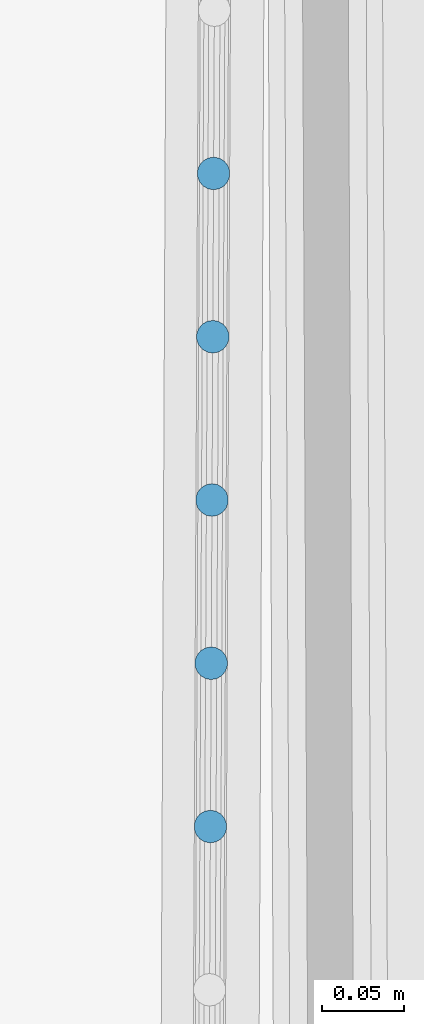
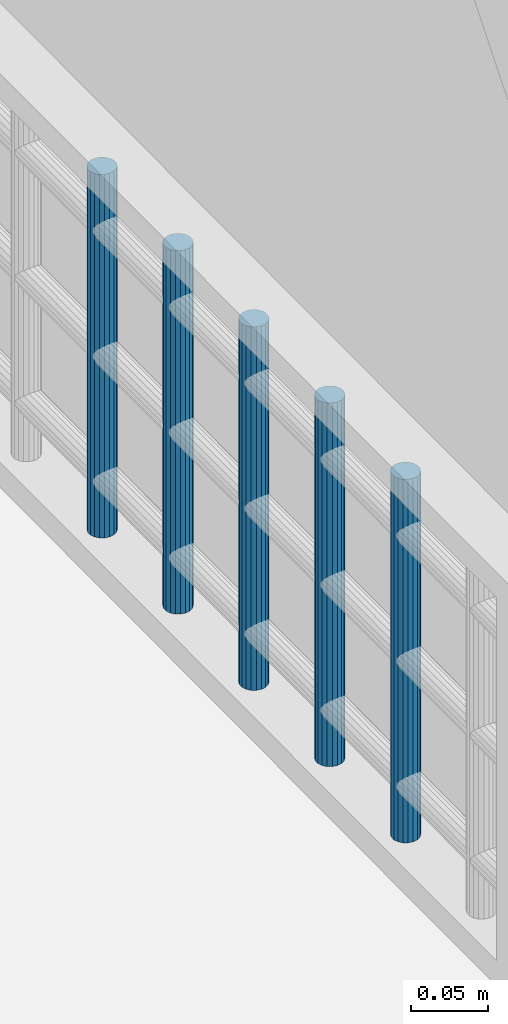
# One storey, part 36 of 72: 5 members, 1 element without a shape of its own.
"""IFC2X3 building model written with IfcOpenShell, lengths in centimetres."""

from ifc_helpers import new_model, entity, si_unit, converted_unit, direction, frame, origin, origin_with_axes, place, context, subcontext, project, spatial, faceted_brep, material, type_object, element, aggregate, save


model = new_model("IFC2X3")

# Units and contexts
model_context = context("Model", 3, precision=0.0001, world=origin(), true_north=direction((0.225632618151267, 0.974212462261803, 0.0)))
body_context = subcontext(model_context, "Body", "Model", "MODEL_VIEW")
ifc_project = project(units=[si_unit("LENGTHUNIT", "METRE", prefix="CENTI"), si_unit("AREAUNIT", "SQUARE_METRE", prefix="CENTI"), si_unit("VOLUMEUNIT", "CUBIC_METRE", prefix="CENTI"), converted_unit("PLANEANGLEUNIT", "DEGREE", entity("IfcRatioMeasure", 0.0174532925), si_unit("PLANEANGLEUNIT", "RADIAN"), dimensions=[0, 0, 0, 0, 0, 0, 0])], contexts=[model_context])

# Site, building, storey
site_placement = place(None, origin_with_axes())
site = spatial("IfcSite", under=ifc_project, at=site_placement, Name="Default Site", CompositionType="ELEMENT")
building_placement = place(site_placement, origin_with_axes())
building = spatial("IfcBuilding", under=site, at=building_placement, Name="Default Building", CompositionType="ELEMENT")
storey_placement = place(building_placement, frame((0.0, 0.0, 853.910374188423), z_axis=(0.0, 0.0, 1.0), x_axis=(1.0, 0.0, 0.0)))
storey = spatial("IfcBuildingStorey", under=building, at=storey_placement, Name="Niveau 2", CompositionType="ELEMENT", Elevation=853.910374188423)

# Assembly, members
building_element_proxy_type = type_object("IfcBuildingElementProxyType", Name="Type Object", PredefinedType="NOTDEFINED")
assembly_placement = place(storey_placement, frame((1065.78157704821, 135.618268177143, 11.9999999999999), z_axis=(0.0, 0.0, 1.0), x_axis=(-0.00486371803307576, -0.999988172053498, 0.0)))
assembly = element("IfcElementAssembly", 1, at=assembly_placement, inside=storey, type_object=building_element_proxy_type, Name="Panneau 1702025", ObjectType="Precast panel", PredefinedType="USERDEFINED")
ifc_material = material(Name="Aluminium satiné")
member_1_placement = place(assembly_placement, frame((88.439691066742, 0.342020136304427, 31.0000002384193), z_axis=(0.0, 0.0, 1.0), x_axis=(0.499995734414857, -0.866027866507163, 0.0)))
member_1 = element("IfcMember", 2, at=member_1_placement, material=ifc_material, Name="4294967121", context=body_context, shape_type="Brep", body=[
    faceted_brep([(-8.88178419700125e-14, 2.22044604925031e-14, -3.49720252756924e-13), (-0.347295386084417, 0.0, -3.49720252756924e-13), (-0.673647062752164, -0.118784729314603, -3.49720252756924e-13), (-0.93969117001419, -0.342025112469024, -3.49720252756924e-13), (-1.11333590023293, -0.642790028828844, -3.49720252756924e-13), (-1.17364232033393, -0.98481176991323, -3.49720252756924e-13), (-1.11333370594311, -1.32683238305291, -3.49720252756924e-13), (-0.939683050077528, -1.62759729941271, -3.49720252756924e-13), (-0.67363781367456, -1.85083429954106, -3.49720252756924e-13), (-0.347285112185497, -1.96961451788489, -3.49720252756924e-13), (1.02738988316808e-05, -1.96961451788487, -3.49720252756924e-13), (0.326361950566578, -1.85082978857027, -3.49720252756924e-13), (0.592406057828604, -1.62758940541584, -3.49720252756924e-13), (0.766050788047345, -1.32682448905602, -3.49720252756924e-13), (0.826357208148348, -0.984802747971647, -3.49720252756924e-13), (0.766048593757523, -0.642782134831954, -3.49720252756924e-13), (0.592397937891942, -0.342017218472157, -3.49720252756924e-13), (0.326352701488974, -0.118780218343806, -3.49720252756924e-13), (0.326352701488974, -0.118780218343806, -29.0000002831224), (0.592397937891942, -0.342017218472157, -29.0000002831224), (0.766048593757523, -0.642782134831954, -29.0000002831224), (0.826357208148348, -0.984802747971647, -29.0000002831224), (0.766050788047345, -1.32682448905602, -29.0000002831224), (0.592406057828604, -1.62758940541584, -29.0000002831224), (0.326361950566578, -1.85082978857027, -29.0000002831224), (1.02738988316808e-05, -1.96961451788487, -29.0000002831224), (-0.347285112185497, -1.96961451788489, -29.0000002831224), (-0.67363781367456, -1.85083429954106, -29.0000002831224), (-0.939683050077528, -1.62759729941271, -29.0000002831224), (-1.11333370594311, -1.32683238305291, -29.0000002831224), (-1.17364232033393, -0.98481176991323, -29.0000002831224), (-1.11333590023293, -0.642790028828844, -29.0000002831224), (-0.93969117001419, -0.342025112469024, -29.0000002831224), (-0.673647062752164, -0.118784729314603, -29.0000002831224), (-0.347295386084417, 0.0, -29.0000002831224), (-8.88178419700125e-14, 2.22044604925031e-14, -29.0000002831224), (0.592398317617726, -0.342016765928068, -3.49720252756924e-13), (0.592398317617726, -0.342016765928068, -29.0000002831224), (0.766047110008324, -0.642782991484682, -3.49720252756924e-13), (0.766047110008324, -0.642782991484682, -29.0000002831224), (0.826357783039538, -0.984802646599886, -3.49720252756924e-13), (0.826357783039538, -0.984802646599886, -29.0000002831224), (0.766051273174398, -1.32682457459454, -3.49720252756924e-13), (0.766051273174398, -1.32682457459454, -29.0000002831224), (0.592406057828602, -1.62758940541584, -3.49720252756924e-13), (0.592406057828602, -1.62758940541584, -29.0000002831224), (0.326361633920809, -1.85082941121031, -3.49720252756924e-13), (0.326361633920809, -1.85082941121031, -29.0000002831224), (1.00742383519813e-05, -1.96961396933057, -3.49720252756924e-13), (1.00742383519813e-05, -1.96961396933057, -29.0000002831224), (-0.347285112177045, -1.96961623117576, -3.49720252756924e-13), (-0.347285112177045, -1.96961623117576, -29.0000002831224), (-0.673637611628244, -1.85083374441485, -3.49720252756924e-13), (-0.673637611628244, -1.85083374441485, -29.0000002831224), (-0.939683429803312, -1.6275977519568, -3.49720252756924e-13), (-0.939683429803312, -1.6275977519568, -29.0000002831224), (-1.11333222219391, -1.32683152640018, -3.49720252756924e-13), (-1.11333222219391, -1.32683152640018, -29.0000002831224), (-1.17364289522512, -0.98481187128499, -3.49720252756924e-13), (-1.17364289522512, -0.98481187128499, -29.0000002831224), (-1.11333638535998, -0.642789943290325, -3.49720252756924e-13), (-1.11333638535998, -0.642789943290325, -29.0000002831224), (-0.939691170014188, -0.342025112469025, -3.49720252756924e-13), (-0.939691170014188, -0.342025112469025, -29.0000002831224), (-0.6736467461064, -0.118785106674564, -3.49720252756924e-13), (-0.6736467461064, -0.118785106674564, -29.0000002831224), (-0.347295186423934, -5.48554301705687e-07, -3.49720252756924e-13), (-0.347295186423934, -5.48554301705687e-07, -29.0000002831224), (-8.540889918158e-12, 1.7132908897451e-06, -3.49720252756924e-13), (-8.540889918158e-12, 1.7132908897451e-06, -29.0000002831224), (0.326352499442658, -0.118780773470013, -3.49720252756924e-13), (0.326352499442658, -0.118780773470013, -29.0000002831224)], [[[0, 1, 2, 3, 4, 5, 6, 7, 8, 9, 10, 11, 12, 13, 14, 15, 16, 17]], [[18, 19, 20, 21, 22, 23, 24, 25, 26, 27, 28, 29, 30, 31, 32, 33, 34, 35]], [[17, 36, 37, 18]], [[16, 38, 39, 19]], [[15, 40, 41, 20]], [[14, 42, 43, 21]], [[13, 44, 45, 22]], [[12, 46, 47, 23]], [[11, 48, 49, 24]], [[10, 50, 51, 25]], [[9, 52, 53, 26]], [[8, 54, 55, 27]], [[7, 56, 57, 28]], [[6, 58, 59, 29]], [[5, 60, 61, 30]], [[4, 62, 63, 31]], [[3, 64, 65, 32]], [[2, 66, 67, 33]], [[1, 68, 69, 34]], [[0, 70, 71, 35]]]),
])
member_2_placement = place(assembly_placement, frame((98.4396934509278, 0.342020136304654, 31.0000002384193), z_axis=(0.0, 0.0, 1.0), x_axis=(0.499995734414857, -0.866027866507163, 0.0)))
member_2 = element("IfcMember", 3, at=member_2_placement, material=ifc_material, Name="4294967120", context=body_context, shape_type="Brep", body=[
    faceted_brep([(8.32667268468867e-14, -9.99200722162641e-14, -3.49720252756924e-13), (-0.34729538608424, -1.22124532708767e-13, -3.49720252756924e-13), (-0.673647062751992, -0.118784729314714, -3.49720252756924e-13), (-0.939691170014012, -0.342025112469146, -3.49720252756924e-13), (-1.11333888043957, -0.642795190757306, -3.49720252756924e-13), (-1.17364232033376, -0.984811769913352, -3.49720252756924e-13), (-1.11333370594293, -1.32683238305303, -3.49720252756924e-13), (-0.939686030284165, -1.62760246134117, -3.49720252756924e-13), (-0.673640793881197, -1.85083946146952, -3.49720252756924e-13), (-0.347288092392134, -1.96961967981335, -3.49720252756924e-13), (1.02738990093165e-05, -1.96961451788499, -3.49720252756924e-13), (0.326361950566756, -1.8508297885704, -3.49720252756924e-13), (0.592403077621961, -1.6275945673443, -3.49720252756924e-13), (0.766050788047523, -1.32682448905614, -3.49720252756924e-13), (0.82635720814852, -0.984802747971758, -3.49720252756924e-13), (0.766048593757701, -0.642782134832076, -3.49720252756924e-13), (0.592397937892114, -0.342017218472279, -3.49720252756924e-13), (0.326352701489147, -0.118780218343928, -3.49720252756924e-13), (0.326352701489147, -0.118780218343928, -29.0000002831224), (0.592397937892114, -0.342017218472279, -29.0000002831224), (0.766048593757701, -0.642782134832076, -29.0000002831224), (0.82635720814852, -0.984802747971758, -29.0000002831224), (0.766050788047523, -1.32682448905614, -29.0000002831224), (0.592403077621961, -1.6275945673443, -29.0000002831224), (0.326361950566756, -1.8508297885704, -29.0000002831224), (1.02738990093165e-05, -1.96961451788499, -29.0000002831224), (-0.347288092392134, -1.96961967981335, -29.0000002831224), (-0.673640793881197, -1.85083946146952, -29.0000002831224), (-0.939686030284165, -1.62760246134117, -29.0000002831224), (-1.11333370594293, -1.32683238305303, -29.0000002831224), (-1.17364232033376, -0.984811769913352, -29.0000002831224), (-1.11333888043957, -0.642795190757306, -29.0000002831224), (-0.939691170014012, -0.342025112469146, -29.0000002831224), (-0.673647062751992, -0.118784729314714, -29.0000002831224), (-0.34729538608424, -1.22124532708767e-13, -29.0000002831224), (8.32667268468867e-14, -9.99200722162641e-14, -29.0000002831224), (0.592398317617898, -0.34201676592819, -3.49720252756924e-13), (0.592398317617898, -0.34201676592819, -29.0000002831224), (0.766047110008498, -0.642782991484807, -3.49720252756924e-13), (0.766047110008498, -0.642782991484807, -29.0000002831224), (0.826357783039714, -0.984802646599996, -3.49720252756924e-13), (0.826357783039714, -0.984802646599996, -29.0000002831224), (0.766051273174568, -1.32682457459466, -3.49720252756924e-13), (0.766051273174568, -1.32682457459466, -29.0000002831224), (0.592403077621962, -1.6275945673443, -3.49720252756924e-13), (0.592403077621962, -1.6275945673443, -29.0000002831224), (0.326362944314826, -1.85083097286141, -3.49720252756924e-13), (0.326362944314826, -1.85083097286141, -29.0000002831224), (1.0074238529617e-05, -1.9696139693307, -3.49720252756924e-13), (1.0074238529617e-05, -1.9696139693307, -29.0000002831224), (-0.347288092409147, -1.96961623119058, -3.49720252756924e-13), (-0.347288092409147, -1.96961623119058, -29.0000002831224), (-0.673640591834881, -1.85083890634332, -3.49720252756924e-13), (-0.673640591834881, -1.85083890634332, -29.0000002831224), (-0.939686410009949, -1.62760291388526, -3.49720252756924e-13), (-0.939686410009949, -1.62760291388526, -29.0000002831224), (-1.11333669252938, -1.32683410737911, -3.49720252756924e-13), (-1.11333669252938, -1.32683410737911, -29.0000002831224), (-1.17364289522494, -0.984811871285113, -3.49720252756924e-13), (-1.17364289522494, -0.984811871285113, -29.0000002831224), (-1.11333735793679, -0.642795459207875, -3.49720252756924e-13), (-1.11333735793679, -0.642795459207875, -29.0000002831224), (-0.939691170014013, -0.342025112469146, -3.49720252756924e-13), (-0.939691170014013, -0.342025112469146, -29.0000002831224), (-0.67364674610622, -0.118785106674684, -3.49720252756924e-13), (-0.67364674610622, -0.118785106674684, -29.0000002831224), (-0.347295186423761, -5.48554412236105e-07, -3.49720252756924e-13), (-0.347295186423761, -5.48554412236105e-07, -29.0000002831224), (-8.36880534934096e-12, 1.71329076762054e-06, -3.49720252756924e-13), (-8.36880534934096e-12, 1.71329076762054e-06, -29.0000002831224), (0.32635249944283, -0.118780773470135, -3.49720252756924e-13), (0.32635249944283, -0.118780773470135, -29.0000002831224)], [[[0, 1, 2, 3, 4, 5, 6, 7, 8, 9, 10, 11, 12, 13, 14, 15, 16, 17]], [[18, 19, 20, 21, 22, 23, 24, 25, 26, 27, 28, 29, 30, 31, 32, 33, 34, 35]], [[17, 36, 37, 18]], [[16, 38, 39, 19]], [[15, 40, 41, 20]], [[14, 42, 43, 21]], [[13, 44, 45, 22]], [[12, 46, 47, 23]], [[11, 48, 49, 24]], [[10, 50, 51, 25]], [[9, 52, 53, 26]], [[8, 54, 55, 27]], [[7, 56, 57, 28]], [[6, 58, 59, 29]], [[5, 60, 61, 30]], [[4, 62, 63, 31]], [[3, 64, 65, 32]], [[2, 66, 67, 33]], [[1, 68, 69, 34]], [[0, 70, 71, 35]]]),
])
member_3_placement = place(assembly_placement, frame((108.439695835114, 0.342020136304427, 31.0000002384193), z_axis=(0.0, 0.0, 1.0), x_axis=(0.500008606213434, -0.866020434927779, 0.0)))
member_3 = element("IfcMember", 4, at=member_3_placement, material=ifc_material, Name="4294967119", context=body_context, shape_type="Brep", body=[
    faceted_brep([(2.44249065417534e-13, -1.4432899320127e-13, 5.55111512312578e-15), (-0.347298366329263, -1.4432899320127e-13, 5.55111512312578e-15), (-0.673648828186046, -0.118774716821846, 5.55111512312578e-15), (-0.939699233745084, -0.342016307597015, 5.55111512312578e-15), (-1.11334843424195, -0.642778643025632, 5.55111512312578e-15), (-1.17365695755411, -0.984794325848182, 5.55111512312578e-15), (-1.1133564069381, -1.32682099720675, 5.55111512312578e-15), (-0.939713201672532, -1.62759365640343, 5.55111512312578e-15), (-0.673665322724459, -1.85082428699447, 5.55111512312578e-15), (-0.3473203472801, -1.9696196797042, 5.55111512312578e-15), (-2.19809505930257e-05, -1.9696196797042, 5.55111512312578e-15), (0.326334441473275, -1.85083463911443, 5.55111512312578e-15), (0.592378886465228, -1.62760337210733, 5.55111512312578e-15), (0.766028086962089, -1.32684103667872, 5.55111512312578e-15), (0.826342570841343, -0.984815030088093, 5.55111512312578e-15), (0.766036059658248, -0.642798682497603, 5.55111512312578e-15), (0.592392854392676, -0.342026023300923, 5.55111512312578e-15), (0.326350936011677, -0.118785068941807, 5.55111512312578e-15), (0.326350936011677, -0.118785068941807, -29.0000002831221), (0.592392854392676, -0.342026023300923, -29.0000002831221), (0.766036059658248, -0.642798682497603, -29.0000002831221), (0.826342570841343, -0.984815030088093, -29.0000002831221), (0.766028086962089, -1.32684103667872, -29.0000002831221), (0.592378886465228, -1.62760337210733, -29.0000002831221), (0.326334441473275, -1.85083463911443, -29.0000002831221), (-2.19809505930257e-05, -1.9696196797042, -29.0000002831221), (-0.3473203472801, -1.9696196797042, -29.0000002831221), (-0.673665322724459, -1.85082428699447, -29.0000002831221), (-0.939713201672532, -1.62759365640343, -29.0000002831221), (-1.1133564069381, -1.32682099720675, -29.0000002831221), (-1.17365695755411, -0.984794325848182, -29.0000002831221), (-1.11334843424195, -0.642778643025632, -29.0000002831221), (-0.939699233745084, -0.342016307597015, -29.0000002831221), (-0.673648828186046, -0.118774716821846, -29.0000002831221), (-0.347298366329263, -1.4432899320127e-13, -29.0000002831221), (2.44249065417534e-13, -1.4432899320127e-13, -29.0000002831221), (0.592393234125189, -0.342025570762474, 5.55111512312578e-15), (0.592393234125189, -0.342025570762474, -29.0000002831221), (0.766039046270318, -0.642796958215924, 5.55111512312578e-15), (0.766039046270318, -0.642796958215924, -29.0000002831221), (0.82633937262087, -0.984815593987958, 5.55111512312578e-15), (0.82633937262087, -0.984815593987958, -29.0000002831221), (0.76603057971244, -1.32684147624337, 5.55111512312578e-15), (0.76603057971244, -1.32684147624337, -29.0000002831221), (0.592378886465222, -1.62760337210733, 5.55111512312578e-15), (0.592378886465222, -1.62760337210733, -29.0000002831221), (0.326335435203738, -1.85083582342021, 5.55111512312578e-15), (0.326335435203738, -1.85083582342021, -29.0000002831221), (-2.34909532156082e-05, -1.96961553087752, 5.55111512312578e-15), (-2.34909532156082e-05, -1.96961553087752, -29.0000002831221), (-0.347320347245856, -1.96961623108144, 5.55111512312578e-15), (-0.347320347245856, -1.96961623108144, -29.0000002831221), (-0.673669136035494, -1.85083476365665, 5.55111512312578e-15), (-0.673669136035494, -1.85083476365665, -29.0000002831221), (-0.939706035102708, -1.62758511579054, 5.55111512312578e-15), (-0.939706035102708, -1.62758511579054, -29.0000002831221), (-1.11335939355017, -1.32682272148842, 5.55111512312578e-15), (-1.11335939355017, -1.32682272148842, -29.0000002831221), (-1.17366130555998, -0.984795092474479, 5.55111512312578e-15), (-1.17366130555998, -0.984795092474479, -29.0000002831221), (-1.11334691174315, -0.64277891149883, 5.55111512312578e-15), (-1.11334691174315, -0.64277891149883, -29.0000002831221), (-0.939699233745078, -0.342016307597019, 5.55111512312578e-15), (-0.939699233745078, -0.342016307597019, -29.0000002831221), (-0.673647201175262, -0.118776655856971, 5.55111512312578e-15), (-0.673647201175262, -0.118776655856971, -29.0000002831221), (-0.347299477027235, 3.0517120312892e-06, 5.55111512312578e-15), (-0.347299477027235, 3.0517120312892e-06, -29.0000002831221), (-3.40000782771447e-11, -3.44862290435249e-06, 5.55111512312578e-15), (-3.40000782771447e-11, -3.44862290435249e-06, -29.0000002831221), (0.326350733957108, -0.118785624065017, 5.55111512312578e-15), (0.326350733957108, -0.118785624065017, -29.0000002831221)], [[[0, 1, 2, 3, 4, 5, 6, 7, 8, 9, 10, 11, 12, 13, 14, 15, 16, 17]], [[18, 19, 20, 21, 22, 23, 24, 25, 26, 27, 28, 29, 30, 31, 32, 33, 34, 35]], [[17, 36, 37, 18]], [[16, 38, 39, 19]], [[15, 40, 41, 20]], [[14, 42, 43, 21]], [[13, 44, 45, 22]], [[12, 46, 47, 23]], [[11, 48, 49, 24]], [[10, 50, 51, 25]], [[9, 52, 53, 26]], [[8, 54, 55, 27]], [[7, 56, 57, 28]], [[6, 58, 59, 29]], [[5, 60, 61, 30]], [[4, 62, 63, 31]], [[3, 64, 65, 32]], [[2, 66, 67, 33]], [[1, 68, 69, 34]], [[0, 70, 71, 35]]]),
])
member_4_placement = place(assembly_placement, frame((118.439698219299, 0.342020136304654, 31.0000002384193), z_axis=(0.0, 0.0, 1.0), x_axis=(0.500008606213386, -0.866020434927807, 0.0)))
member_4 = element("IfcMember", 5, at=member_4_placement, material=ifc_material, Name="4294967118", context=body_context, shape_type="Brep", body=[
    faceted_brep([(1.99840144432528e-13, 2.22044604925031e-14, -3.33066907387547e-13), (-0.347298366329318, 0.0, -3.33066907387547e-13), (-0.673654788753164, -0.118785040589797, -3.33066907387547e-13), (-0.939699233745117, -0.342016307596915, -3.33066907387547e-13), (-1.11334843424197, -0.642778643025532, -3.33066907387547e-13), (-1.17366291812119, -0.984804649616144, -3.33066907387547e-13), (-1.11335640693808, -1.32682099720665, -3.33066907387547e-13), (-0.939713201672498, -1.62759365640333, -3.33066907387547e-13), (-0.673671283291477, -1.85083461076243, -3.33066907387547e-13), (-0.347320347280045, -1.96961967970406, -3.33066907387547e-13), (-2.19809505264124e-05, -1.96961967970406, -3.33066907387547e-13), (0.326328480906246, -1.85084496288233, -3.33066907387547e-13), (0.592378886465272, -1.62760337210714, -3.33066907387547e-13), (0.766028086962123, -1.32684103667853, -3.33066907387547e-13), (0.82633661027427, -0.984825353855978, -3.33066907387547e-13), (0.766036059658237, -0.642798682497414, -3.33066907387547e-13), (0.592392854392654, -0.342026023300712, -3.33066907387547e-13), (0.326344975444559, -0.118795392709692, -3.33066907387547e-13), (0.326344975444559, -0.118795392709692, -29.0000002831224), (0.592392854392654, -0.342026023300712, -29.0000002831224), (0.766036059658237, -0.642798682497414, -29.0000002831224), (0.82633661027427, -0.984825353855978, -29.0000002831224), (0.766028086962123, -1.32684103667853, -29.0000002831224), (0.592378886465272, -1.62760337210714, -29.0000002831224), (0.326328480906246, -1.85084496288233, -29.0000002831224), (-2.19809505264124e-05, -1.96961967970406, -29.0000002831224), (-0.347320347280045, -1.96961967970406, -29.0000002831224), (-0.673671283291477, -1.85083461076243, -29.0000002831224), (-0.939713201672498, -1.62759365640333, -29.0000002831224), (-1.11335640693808, -1.32682099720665, -29.0000002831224), (-1.17366291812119, -0.984804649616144, -29.0000002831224), (-1.11334843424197, -0.642778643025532, -29.0000002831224), (-0.939699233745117, -0.342016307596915, -29.0000002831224), (-0.673654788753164, -0.118785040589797, -29.0000002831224), (-0.347298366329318, 0.0, -29.0000002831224), (1.99840144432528e-13, 2.22044604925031e-14, -29.0000002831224), (0.592385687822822, -0.342034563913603, -3.33066907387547e-13), (0.592385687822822, -0.342034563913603, -29.0000002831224), (0.766039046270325, -0.642796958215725, -3.33066907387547e-13), (0.766039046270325, -0.642796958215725, -29.0000002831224), (0.826340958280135, -0.984824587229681, -3.33066907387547e-13), (0.826340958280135, -0.984824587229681, -29.0000002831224), (0.766026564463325, -1.32684076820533, -3.33066907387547e-13), (0.766026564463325, -1.32684076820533, -29.0000002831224), (0.592378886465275, -1.62760337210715, -3.33066907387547e-13), (0.592378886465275, -1.62760337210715, -29.0000002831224), (0.326326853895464, -1.8508430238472, -3.33066907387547e-13), (0.326326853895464, -1.8508430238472, -29.0000002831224), (-2.08702525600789e-05, -1.96962273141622, -3.33066907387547e-13), (-2.08702525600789e-05, -1.96962273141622, -29.0000002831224), (-0.3473203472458, -1.96961623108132, -3.33066907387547e-13), (-0.3473203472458, -1.96961623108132, -29.0000002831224), (-0.673671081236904, -1.85083405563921, -3.33066907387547e-13), (-0.673671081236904, -1.85083405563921, -29.0000002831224), (-0.93971358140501, -1.62759410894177, -3.33066907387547e-13), (-0.93971358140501, -1.62759410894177, -29.0000002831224), (-1.11335939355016, -1.32682272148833, -3.33066907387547e-13), (-1.11335939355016, -1.32682272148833, -29.0000002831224), (-1.17365971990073, -0.984804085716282, -3.33066907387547e-13), (-1.17365971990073, -0.984804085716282, -29.0000002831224), (-1.11335092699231, -0.642778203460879, -3.33066907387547e-13), (-1.11335092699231, -0.642778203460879, -29.0000002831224), (-0.93969923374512, -0.342016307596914, -3.33066907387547e-13), (-0.93969923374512, -0.342016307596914, -29.0000002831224), (-0.673655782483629, -0.118783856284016, -3.33066907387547e-13), (-0.673655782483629, -0.118783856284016, -29.0000002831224), (-0.347296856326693, -4.14882669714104e-06, -3.33066907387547e-13), (-0.347296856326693, -4.14882669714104e-06, -29.0000002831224), (-3.40444870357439e-11, -3.44862274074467e-06, -3.33066907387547e-13), (-3.40444870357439e-11, -3.44862274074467e-06, -29.0000002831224), (0.326348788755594, -0.118784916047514, -3.33066907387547e-13), (0.326348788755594, -0.118784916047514, -29.0000002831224)], [[[0, 1, 2, 3, 4, 5, 6, 7, 8, 9, 10, 11, 12, 13, 14, 15, 16, 17]], [[18, 19, 20, 21, 22, 23, 24, 25, 26, 27, 28, 29, 30, 31, 32, 33, 34, 35]], [[17, 36, 37, 18]], [[16, 38, 39, 19]], [[15, 40, 41, 20]], [[14, 42, 43, 21]], [[13, 44, 45, 22]], [[12, 46, 47, 23]], [[11, 48, 49, 24]], [[10, 50, 51, 25]], [[9, 52, 53, 26]], [[8, 54, 55, 27]], [[7, 56, 57, 28]], [[6, 58, 59, 29]], [[5, 60, 61, 30]], [[4, 62, 63, 31]], [[3, 64, 65, 32]], [[2, 66, 67, 33]], [[1, 68, 69, 34]], [[0, 70, 71, 35]]]),
])
member_5_placement = place(assembly_placement, frame((128.439688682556, 0.342020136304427, 31.0000002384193), z_axis=(0.0, 0.0, 1.0), x_axis=(0.499982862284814, -0.866035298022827, 0.0)))
member_5 = element("IfcMember", 6, at=member_5_placement, material=ifc_material, Name="4294967117", context=body_context, shape_type="Brep", body=[
    faceted_brep([(-1.11022302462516e-14, -4.44089209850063e-14, -1.55431223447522e-13), (-0.347292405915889, -1.33226762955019e-13, -1.55431223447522e-13), (-0.673645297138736, -0.118794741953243, -1.55431223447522e-13), (-0.939683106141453, -0.34203391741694, -1.55431223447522e-13), (-1.11332336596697, -0.642801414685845, -1.55431223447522e-13), (-1.17362768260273, -0.984829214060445, -1.55431223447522e-13), (-1.11331100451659, -1.32684376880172, -1.55431223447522e-13), (-0.939658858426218, -1.62761126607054, -1.55431223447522e-13), (-0.673610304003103, -1.85084431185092, -1.55431223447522e-13), (-0.347255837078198, -1.96961967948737, -1.55431223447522e-13), (4.25290978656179e-05, -1.96960935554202, -1.55431223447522e-13), (0.326389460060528, -1.85082493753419, -1.55431223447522e-13), (0.59243322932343, -1.62757543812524, -1.55431223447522e-13), (0.766073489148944, -1.32680794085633, -1.55431223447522e-13), (0.826371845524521, -0.984790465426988, -1.55431223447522e-13), (0.76606112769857, -0.642765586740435, -1.55431223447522e-13), (0.592403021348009, -0.342008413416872, -1.55431223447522e-13), (0.326354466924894, -0.118775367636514, -1.55431223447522e-13), (0.326354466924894, -0.118775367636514, -29.0000002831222), (0.592403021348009, -0.342008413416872, -29.0000002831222), (0.76606112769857, -0.642765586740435, -29.0000002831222), (0.826371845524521, -0.984790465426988, -29.0000002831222), (0.766073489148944, -1.32680794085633, -29.0000002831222), (0.59243322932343, -1.62757543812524, -29.0000002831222), (0.326389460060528, -1.85082493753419, -29.0000002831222), (4.25290978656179e-05, -1.96960935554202, -29.0000002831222), (-0.347255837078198, -1.96961967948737, -29.0000002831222), (-0.673610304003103, -1.85084431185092, -29.0000002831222), (-0.939658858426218, -1.62761126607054, -29.0000002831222), (-1.11331100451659, -1.32684376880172, -29.0000002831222), (-1.17362768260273, -0.984829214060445, -29.0000002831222), (-1.11332336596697, -0.642801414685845, -29.0000002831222), (-0.939683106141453, -0.34203391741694, -29.0000002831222), (-0.673645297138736, -0.118794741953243, -29.0000002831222), (-0.347292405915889, -1.33226762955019e-13, -29.0000002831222), (-1.11022302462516e-14, -4.44089209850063e-14, -29.0000002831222), (0.592403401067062, -0.342007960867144, -1.55431223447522e-13), (0.592403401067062, -0.342007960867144, -29.0000002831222), (0.766055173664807, -0.642769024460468, -1.55431223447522e-13), (0.766055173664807, -0.642769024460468, -29.0000002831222), (0.826376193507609, -0.984789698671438, -1.55431223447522e-13), (0.826376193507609, -0.984789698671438, -29.0000002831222), (0.766071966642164, -1.32680767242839, -1.55431223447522e-13), (0.766071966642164, -1.32680767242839, -29.0000002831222), (0.592433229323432, -1.62757543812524, -1.55431223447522e-13), (0.592433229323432, -1.62757543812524, -29.0000002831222), (0.326387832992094, -1.85082299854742, -1.55431223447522e-13), (0.326387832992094, -1.85082299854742, -29.0000002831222), (4.3639886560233e-05, -1.9696124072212, -1.55431223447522e-13), (4.3639886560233e-05, -1.9696124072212, -29.0000002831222), (-0.347255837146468, -1.9696162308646, -1.55431223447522e-13), (-0.347255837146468, -1.9696162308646, -29.0000002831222), (-0.673610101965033, -1.8508437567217, -1.55431223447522e-13), (-0.673610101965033, -1.8508437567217, -29.0000002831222), (-0.939659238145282, -1.62761171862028, -1.55431223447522e-13), (-0.939659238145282, -1.62761171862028, -29.0000002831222), (-1.1133139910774, -1.32684549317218, -1.55431223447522e-13), (-1.1133139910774, -1.32684549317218, -29.0000002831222), (-1.17362448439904, -0.984828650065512, -1.55431223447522e-13), (-1.17362448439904, -0.984828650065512, -29.0000002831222), (-1.11332585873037, -0.642800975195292, -1.55431223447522e-13), (-1.11332585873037, -0.642800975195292, -29.0000002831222), (-0.939683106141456, -0.342033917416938, -1.55431223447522e-13), (-0.939683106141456, -0.342033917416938, -29.0000002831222), (-0.673646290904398, -0.118793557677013, -1.55431223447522e-13), (-0.673646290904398, -0.118793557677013, -29.0000002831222), (-0.347290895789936, -4.14878193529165e-06, -1.55431223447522e-13), (-0.347290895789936, -4.14878193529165e-06, -29.0000002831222), (-1.36116690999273e-10, 6.87520444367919e-06, -1.55431223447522e-13), (-1.36116690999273e-10, 6.87520444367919e-06, -29.0000002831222), (0.326354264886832, -0.118775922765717, -1.55431223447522e-13), (0.326354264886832, -0.118775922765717, -29.0000002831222)], [[[0, 1, 2, 3, 4, 5, 6, 7, 8, 9, 10, 11, 12, 13, 14, 15, 16, 17]], [[18, 19, 20, 21, 22, 23, 24, 25, 26, 27, 28, 29, 30, 31, 32, 33, 34, 35]], [[17, 36, 37, 18]], [[16, 38, 39, 19]], [[15, 40, 41, 20]], [[14, 42, 43, 21]], [[13, 44, 45, 22]], [[12, 46, 47, 23]], [[11, 48, 49, 24]], [[10, 50, 51, 25]], [[9, 52, 53, 26]], [[8, 54, 55, 27]], [[7, 56, 57, 28]], [[6, 58, 59, 29]], [[5, 60, 61, 30]], [[4, 62, 63, 31]], [[3, 64, 65, 32]], [[2, 66, 67, 33]], [[1, 68, 69, 34]], [[0, 70, 71, 35]]]),
])
aggregate(assembly, [member_1, member_2, member_3, member_4, member_5])

save(model, "model.ifc")
